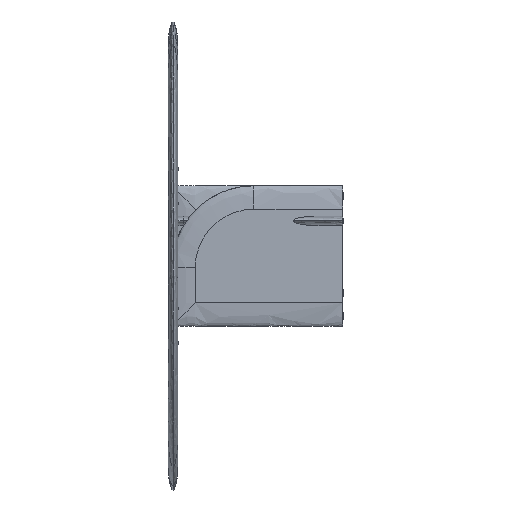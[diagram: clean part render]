
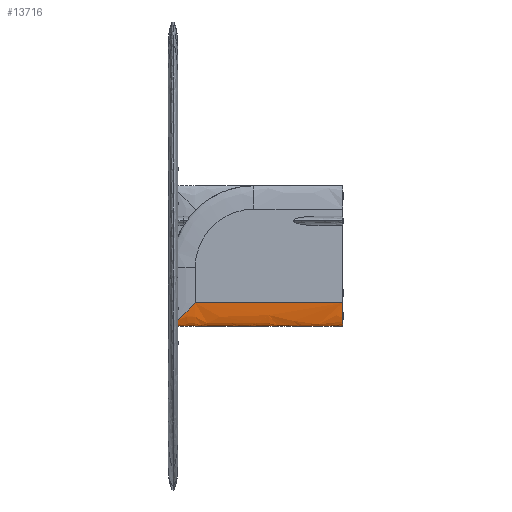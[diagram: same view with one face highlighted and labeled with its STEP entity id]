
A CAD part, left-side view. The second image highlights one B-rep face of the part: STEP entity #13716.
In plain terms, the highlighted free-form (B-spline) face has degree [3, 1] with [4, 2] control points.
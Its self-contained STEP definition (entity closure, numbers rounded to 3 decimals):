
#63 =( BOUNDED_CURVE ( )  B_SPLINE_CURVE ( 3, ( #13394, #4018, #13706, #19695 ),
 .UNSPECIFIED., .F., .F. ) 
 B_SPLINE_CURVE_WITH_KNOTS ( ( 4, 4 ),
 ( 2.419, 3.864 ),
 .UNSPECIFIED. ) 
 CURVE ( )  GEOMETRIC_REPRESENTATION_ITEM ( )  RATIONAL_B_SPLINE_CURVE ( ( 1., 0.833, 0.833, 1. ) ) 
 REPRESENTATION_ITEM ( '' )  );
#96 =( BOUNDED_SURFACE ( )  B_SPLINE_SURFACE ( 3, 1, ( 
 ( #4873, #1694 ),
 ( #18694, #15919 ),
 ( #151, #11172 ),
 ( #3342, #1789 ) ),
 .UNSPECIFIED., .F., .F., .T. ) 
 B_SPLINE_SURFACE_WITH_KNOTS ( ( 4, 4 ),
 ( 2, 2 ),
 ( 0., 1. ),
 ( 0., 1. ),
 .UNSPECIFIED. ) 
 GEOMETRIC_REPRESENTATION_ITEM ( )  RATIONAL_B_SPLINE_SURFACE ( (
 ( 1., 1.),
 ( 0.333, 0.333),
 ( 0.333, 0.333),
 ( 1., 1.) ) ) 
 REPRESENTATION_ITEM ( '' )  SURFACE ( )  );
#151 = CARTESIAN_POINT ( 'NONE',  ( 235., 705., -550. ) ) ;
#298 = EDGE_CURVE ( 'NONE', #18764, #16277, #63, .T. ) ;
#562 = CARTESIAN_POINT ( 'NONE',  ( 235., 0., -350. ) ) ;
#625 = CARTESIAN_POINT ( 'NONE',  ( 199.378, 692.58, -412.58 ) ) ;
#738 = CARTESIAN_POINT ( 'NONE',  ( 201.771, 705., -425. ) ) ;
#1009 = VERTEX_POINT ( 'NONE', #5217 ) ;
#1047 = EDGE_LOOP ( 'NONE', ( #2785, #5700, #2302, #1349, #7439, #8075 ) ) ;
#1185 = VERTEX_POINT ( 'NONE', #5140 ) ;
#1279 = CARTESIAN_POINT ( 'NONE',  ( 195., 630.784, -350.784 ) ) ;
#1334 = CARTESIAN_POINT ( 'NONE',  ( 195., 0., -350. ) ) ;
#1349 = ORIENTED_EDGE ( 'NONE', *, *, #18918, .T. ) ;
#1694 = CARTESIAN_POINT ( 'NONE',  ( 195., 0., -350. ) ) ;
#1789 = CARTESIAN_POINT ( 'NONE',  ( 235., 0., -350. ) ) ;
#2002 = CARTESIAN_POINT ( 'NONE',  ( 195., 0., -550. ) ) ;
#2067 = CARTESIAN_POINT ( 'NONE',  ( 195.015, 633.919, -353.919 ) ) ;
#2151 = CARTESIAN_POINT ( 'NONE',  ( 201.771, 705., -425. ) ) ;
#2188 = VERTEX_POINT ( 'NONE', #1334 ) ;
#2259 = CARTESIAN_POINT ( 'NONE',  ( 195.237, 645.671, -365.671 ) ) ;
#2302 = ORIENTED_EDGE ( 'NONE', *, *, #10451, .F. ) ;
#2728 = CARTESIAN_POINT ( 'NONE',  ( 195.006, 632.743, -352.743 ) ) ;
#2785 = ORIENTED_EDGE ( 'NONE', *, *, #11561, .F. ) ;
#3342 = CARTESIAN_POINT ( 'NONE',  ( 235., 705., -350. ) ) ;
#3479 = CARTESIAN_POINT ( 'NONE',  ( 231.098, 689.464, -409.464 ) ) ;
#3707 = CARTESIAN_POINT ( 'NONE',  ( 198.902, 689.464, -409.464 ) ) ;
#3799 = CARTESIAN_POINT ( 'NONE',  ( 197.677, 680.101, -400.101 ) ) ;
#4018 = CARTESIAN_POINT ( 'NONE',  ( 209.708, 705., -460. ) ) ;
#4037 =( BOUNDED_CURVE ( )  B_SPLINE_CURVE ( 3, ( #5288, #2002, #10044, #562 ),
 .UNSPECIFIED., .F., .F. ) 
 B_SPLINE_CURVE_WITH_KNOTS ( ( 4, 4 ),
 ( 1.571, 4.712 ),
 .UNSPECIFIED. ) 
 CURVE ( )  GEOMETRIC_REPRESENTATION_ITEM ( )  RATIONAL_B_SPLINE_CURVE ( ( 1., 0.333, 0.333, 1. ) ) 
 REPRESENTATION_ITEM ( '' )  );
#4873 = CARTESIAN_POINT ( 'NONE',  ( 195., 705., -350. ) ) ;
#5140 = CARTESIAN_POINT ( 'NONE',  ( 235., 630., -350. ) ) ;
#5217 = CARTESIAN_POINT ( 'NONE',  ( 235., 0., -350. ) ) ;
#5288 = CARTESIAN_POINT ( 'NONE',  ( 195., 0., -350. ) ) ;
#5328 = CARTESIAN_POINT ( 'NONE',  ( 234.883, 642.537, -362.537 ) ) ;
#5700 = ORIENTED_EDGE ( 'NONE', *, *, #298, .T. ) ;
#5792 = CARTESIAN_POINT ( 'NONE',  ( 195., 730.6, -350. ) ) ;
#6640 = LINE ( 'NONE', #14194, #20042 ) ;
#7006 = CARTESIAN_POINT ( 'NONE',  ( 195.597, 655.071, -375.071 ) ) ;
#7326 = CARTESIAN_POINT ( 'NONE',  ( 235., 630., -350. ) ) ;
#7439 = ORIENTED_EDGE ( 'NONE', *, *, #18923, .F. ) ;
#7863 = FACE_OUTER_BOUND ( 'NONE', #1047, .T. ) ;
#8075 = ORIENTED_EDGE ( 'NONE', *, *, #10292, .F. ) ;
#8373 = DIRECTION ( 'NONE',  ( 0., -1., 0. ) ) ;
#8541 = CARTESIAN_POINT ( 'NONE',  ( 195.148, 642.537, -362.537 ) ) ;
#9671 = CARTESIAN_POINT ( 'NONE',  ( 233.279, 670.722, -390.722 ) ) ;
#9910 = CARTESIAN_POINT ( 'NONE',  ( 195.959, 661.335, -381.335 ) ) ;
#10007 = CARTESIAN_POINT ( 'NONE',  ( 197.011, 673.85, -393.85 ) ) ;
#10044 = CARTESIAN_POINT ( 'NONE',  ( 235., 0., -550. ) ) ;
#10292 = EDGE_CURVE ( 'NONE', #17550, #2188, #20119, .T. ) ;
#10451 = EDGE_CURVE ( 'NONE', #1185, #16277, #16724, .T. ) ;
#11172 = CARTESIAN_POINT ( 'NONE',  ( 235., 0., -550. ) ) ;
#11312 = CARTESIAN_POINT ( 'NONE',  ( 234.403, 655.071, -375.071 ) ) ;
#11517 = CARTESIAN_POINT ( 'NONE',  ( 229.537, 698.802, -418.802 ) ) ;
#11561 = EDGE_CURVE ( 'NONE', #18764, #17550, #17570, .T. ) ;
#12071 = CARTESIAN_POINT ( 'NONE',  ( 235., 636.269, -356.269 ) ) ;
#12077 = DIRECTION ( 'NONE',  ( 0., -1., 0. ) ) ;
#12228 = CARTESIAN_POINT ( 'NONE',  ( 228.229, 705., -425. ) ) ;
#13060 = CARTESIAN_POINT ( 'NONE',  ( 230.622, 692.58, -412.58 ) ) ;
#13394 = CARTESIAN_POINT ( 'NONE',  ( 201.771, 705., -425. ) ) ;
#13706 = CARTESIAN_POINT ( 'NONE',  ( 220.292, 705., -460. ) ) ;
#13716 = ADVANCED_FACE ( 'NONE', ( #7863 ), #96, .T. ) ;
#13944 = CARTESIAN_POINT ( 'NONE',  ( 195., 630., -350. ) ) ;
#14194 = CARTESIAN_POINT ( 'NONE',  ( 235., 730.6, -350. ) ) ;
#14726 = CARTESIAN_POINT ( 'NONE',  ( 201.07, 701.907, -421.907 ) ) ;
#14837 = CARTESIAN_POINT ( 'NONE',  ( 195.059, 637.836, -357.836 ) ) ;
#15284 = CARTESIAN_POINT ( 'NONE',  ( 195.002, 631.568, -351.568 ) ) ;
#15605 = CARTESIAN_POINT ( 'NONE',  ( 195., 630.394, -350.394 ) ) ;
#15919 = CARTESIAN_POINT ( 'NONE',  ( 195., 0., -550. ) ) ;
#15958 = CARTESIAN_POINT ( 'NONE',  ( 231.949, 683.225, -403.225 ) ) ;
#16058 = CARTESIAN_POINT ( 'NONE',  ( 232.989, 673.85, -393.85 ) ) ;
#16186 = CARTESIAN_POINT ( 'NONE',  ( 195.037, 636.269, -356.269 ) ) ;
#16277 = VERTEX_POINT ( 'NONE', #12228 ) ;
#16382 = CARTESIAN_POINT ( 'NONE',  ( 196.721, 670.723, -390.723 ) ) ;
#16724 = B_SPLINE_CURVE_WITH_KNOTS ( 'NONE', 3,
 ( #7326, #12071, #5328, #11312, #17603, #9671, #16058, #19453, #15958, #3479, #13060, #11517, #17507, #17801 ),
 .UNSPECIFIED., .F., .F.,
 ( 4, 2, 2, 2, 2, 2, 4 ),
 ( 0., 0.026, 0.053, 0.066, 0.08, 0.093, 0.106 ),
 .UNSPECIFIED. ) ;
#17421 = CARTESIAN_POINT ( 'NONE',  ( 195., 630., -350. ) ) ;
#17507 = CARTESIAN_POINT ( 'NONE',  ( 228.93, 701.907, -421.907 ) ) ;
#17550 = VERTEX_POINT ( 'NONE', #17421 ) ;
#17570 = B_SPLINE_CURVE_WITH_KNOTS ( 'NONE', 3,
 ( #738, #14726, #17832, #625, #3707, #17926, #3799, #10007, #16382, #9910, #7006, #2259, #8541, #14837, #16186, #2067, #2728, #15284, #1279, #15605, #13944 ),
 .UNSPECIFIED., .F., .F.,
 ( 4, 2, 2, 2, 2, 2, 2, 2, 1, 2, 4 ),
 ( 0.039, 0.053, 0.066, 0.079, 0.093, 0.119, 0.133, 0.139, 0.143, 0.144, 0.146 ),
 .UNSPECIFIED. ) ;
#17603 = CARTESIAN_POINT ( 'NONE',  ( 234.041, 661.335, -381.335 ) ) ;
#17801 = CARTESIAN_POINT ( 'NONE',  ( 228.229, 705., -425. ) ) ;
#17832 = CARTESIAN_POINT ( 'NONE',  ( 200.463, 698.802, -418.802 ) ) ;
#17926 = CARTESIAN_POINT ( 'NONE',  ( 198.051, 683.225, -403.225 ) ) ;
#18694 = CARTESIAN_POINT ( 'NONE',  ( 195., 705., -550. ) ) ;
#18764 = VERTEX_POINT ( 'NONE', #2151 ) ;
#18918 = EDGE_CURVE ( 'NONE', #1185, #1009, #6640, .T. ) ;
#18923 = EDGE_CURVE ( 'NONE', #2188, #1009, #4037, .T. ) ;
#18939 = VECTOR ( 'NONE', #12077, 1000. ) ;
#19453 = CARTESIAN_POINT ( 'NONE',  ( 232.323, 680.101, -400.101 ) ) ;
#19695 = CARTESIAN_POINT ( 'NONE',  ( 228.229, 705., -425. ) ) ;
#20042 = VECTOR ( 'NONE', #8373, 1000. ) ;
#20119 = LINE ( 'NONE', #5792, #18939 ) ;
